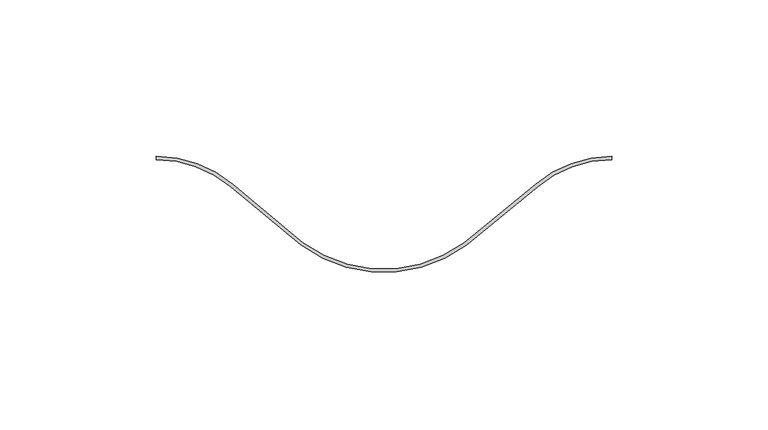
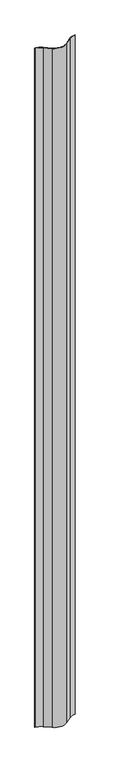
"""IFC4 building model written with IfcOpenShell, lengths in millimetres: plate geometry, Ritmica Couverture 145  : Ritmica Couverture 145 ."""

import ifcopenshell
import ifcopenshell.guid

model = None  # the IFC model being written
_history = None  # IfcOwnerHistory: only IFC2X3 demands one
_inside = {}  # id of a spatial element -> (the spatial element, [elements in it])
_under = {}  # id of a project, library or spatial element -> (it, [spatial elements below it])
_declared = {}  # id of a project -> (the project, [libraries it declares])
_typed = {}  # id of a type object -> (the type object, [elements of that type])
_made_of = {}  # id of a material, layer set ... -> (it, [elements and type objects made of it])


def new_model(schema):
    """Start an empty IFC model of exactly this schema.

    Asked for "IFC4X3", IfcOpenShell would pick the latest addendum, in which some entities
    have other attributes; the version numbers below select the first issue.
    IFC2X3 requires an IfcOwnerHistory on every rooted entity: one is made here for all.
    """
    global model, _history
    if schema == "IFC4X3":
        model = ifcopenshell.file(schema_version=(4, 3, 0, 0))
    else:
        model = ifcopenshell.file(schema=schema)
    _inside.clear()
    _under.clear()
    _declared.clear()
    _typed.clear()
    _made_of.clear()
    _history = None
    if model.schema == "IFC2X3":
        org = make("IfcOrganization", Name="unknown")
        user = make(
            "IfcPersonAndOrganization",
            ThePerson=make("IfcPerson", FamilyName="unknown"),
            TheOrganization=org,
        )
        app = make(
            "IfcApplication",
            ApplicationDeveloper=org,
            Version="unknown",
            ApplicationFullName="unknown",
            ApplicationIdentifier="unknown",
        )
        _history = make(
            "IfcOwnerHistory",
            OwningUser=user,
            OwningApplication=app,
            ChangeAction="ADDED",
            CreationDate=0,
        )
    return model


def make(cls, **values):
    """One entity of the class cls with the attributes given. An attribute that is None is left unset."""
    return model.create_entity(
        cls, **{name: value for name, value in values.items() if value is not None}
    )


def rooted(cls, **values):
    """An entity with a GlobalId (a new one), such as an element, a storey or a relation."""
    return make(cls, GlobalId=ifcopenshell.guid.new(), OwnerHistory=_history, **values)


def si_unit(unit_type, name, prefix=None):
    """IfcSIUnit, for example si_unit("LENGTHUNIT", "METRE", prefix="MILLI")."""
    return make("IfcSIUnit", UnitType=unit_type, Prefix=prefix, Name=name)


def assignment(units):
    """IfcUnitAssignment: the units of a project."""
    return None if units is None else make("IfcUnitAssignment", Units=units)


def point(xyz):
    """IfcCartesianPoint."""
    return None if xyz is None else make("IfcCartesianPoint", Coordinates=xyz)


def direction(xyz):
    """IfcDirection."""
    return None if xyz is None else make("IfcDirection", DirectionRatios=xyz)


def frame(location, z_axis=None, x_axis=None):
    """IfcAxis2Placement3D, a coordinate frame: its origin and axes. An axis left out is left unset."""
    return make(
        "IfcAxis2Placement3D",
        Location=point(location),
        Axis=direction(z_axis),
        RefDirection=direction(x_axis),
    )


def frame_2d(location, x_axis=None):
    """IfcAxis2Placement2D, a coordinate frame in the plane: its origin and x axis."""
    return make(
        "IfcAxis2Placement2D", Location=point(location), RefDirection=direction(x_axis)
    )


def origin():
    """The frame at (0, 0, 0) with its axes left unset."""
    return frame((0.0, 0.0, 0.0))


def origin_with_axes():
    """The frame at (0, 0, 0) with the z axis (0, 0, 1) and the x axis (1, 0, 0) written out."""
    return frame((0.0, 0.0, 0.0), z_axis=(0.0, 0.0, 1.0), x_axis=(1.0, 0.0, 0.0))


def place(relative_to, where):
    """IfcLocalPlacement: puts the frame where relative to a parent placement (None: the world)."""
    return make(
        "IfcLocalPlacement", PlacementRelTo=relative_to, RelativePlacement=where
    )


def context(
    kind, dimensions, precision=None, world=None, true_north=None, identifier=None
):
    """IfcGeometricRepresentationContext, for example the 3D "Model" context."""
    return make(
        "IfcGeometricRepresentationContext",
        ContextIdentifier=identifier,
        ContextType=kind,
        CoordinateSpaceDimension=dimensions,
        Precision=precision,
        WorldCoordinateSystem=world,
        TrueNorth=true_north,
    )


def project(units=None, contexts=None):
    """IfcProject with its units and contexts."""
    return rooted(
        "IfcProject",
        Name="project",
        RepresentationContexts=contexts,
        UnitsInContext=assignment(units),
    )


def spatial(cls, under=None, at=None, **own):
    """A site, building, storey or space (cls), placed at a placement, below another one or the project."""
    s = rooted(cls, ObjectPlacement=at, **own)
    if under is not None:
        _under.setdefault(under.id(), (under, []))[1].append(s)
    return s


def polyline(points):
    """IfcPolyline through the points."""
    return make("IfcPolyline", Points=[point(p) for p in points])


def circle_curve(where, radius):
    """IfcCircle in the frame where."""
    return make("IfcCircle", Position=where, Radius=radius)


def trimmed(basis, trim1, trim2, sense, master):
    """IfcTrimmedCurve: the piece of a basis curve between two trims."""
    return make(
        "IfcTrimmedCurve",
        BasisCurve=basis,
        Trim1=trim1,
        Trim2=trim2,
        SenseAgreement=sense,
        MasterRepresentation=master,
    )


def segment(curve, same_sense, transition):
    """IfcCompositeCurveSegment."""
    return make(
        "IfcCompositeCurveSegment",
        Transition=transition,
        SameSense=same_sense,
        ParentCurve=curve,
    )


def composite_curve(segments, self_intersect=None):
    """IfcCompositeCurve: segments joined end to end."""
    return make("IfcCompositeCurve", Segments=segments, SelfIntersect=self_intersect)


def outline(outer, holes=None, kind="AREA"):
    """IfcArbitraryClosedProfileDef: a profile drawn as a closed curve; with holes, ...WithVoids."""
    if holes is None:
        return make("IfcArbitraryClosedProfileDef", ProfileType=kind, OuterCurve=outer)
    return make(
        "IfcArbitraryProfileDefWithVoids",
        ProfileType=kind,
        OuterCurve=outer,
        InnerCurves=holes,
    )


def extrude(swept, where, along, depth):
    """IfcExtrudedAreaSolid: the profile swept, set in the frame where, extruded along a direction by depth."""
    return make(
        "IfcExtrudedAreaSolid",
        SweptArea=swept,
        Position=where,
        ExtrudedDirection=direction(along),
        Depth=depth,
    )


def shape(context_of_items, identifier, shape_type, items):
    """IfcShapeRepresentation: the items that make up one representation, for example the "Body"."""
    return make(
        "IfcShapeRepresentation",
        ContextOfItems=context_of_items,
        RepresentationIdentifier=identifier,
        RepresentationType=shape_type,
        Items=items,
    )


def source(mapping_origin, context_of_items, identifier, shape_type, items):
    """IfcRepresentationMap: a shape defined once, which mapped items show again and again."""
    return make(
        "IfcRepresentationMap",
        MappingOrigin=mapping_origin,
        MappedRepresentation=shape(context_of_items, identifier, shape_type, items),
    )


def transform(
    local_origin,
    x_axis=None,
    y_axis=None,
    z_axis=None,
    scale=None,
    scale2=None,
    scale3=None,
    uniform=True,
):
    """IfcCartesianTransformationOperator3D, or its non-uniform kind. x_axis, y_axis, z_axis: its Axis1, 2, 3."""
    if uniform:
        return make(
            "IfcCartesianTransformationOperator3D",
            Axis1=direction(x_axis),
            Axis2=direction(y_axis),
            LocalOrigin=point(local_origin),
            Scale=scale,
            Axis3=direction(z_axis),
        )
    return make(
        "IfcCartesianTransformationOperator3DnonUniform",
        Axis1=direction(x_axis),
        Axis2=direction(y_axis),
        LocalOrigin=point(local_origin),
        Scale=scale,
        Axis3=direction(z_axis),
        Scale2=scale2,
        Scale3=scale3,
    )


def mapped(mapping_source, mapping_target):
    """IfcMappedItem: shows the shape of a source again, moved by a transform."""
    return make(
        "IfcMappedItem", MappingSource=mapping_source, MappingTarget=mapping_target
    )


def made_of(thing, what):
    """Note that an element or type object is made of a material, layer set ...; save() writes the relation."""
    if what is not None:
        _made_of.setdefault(what.id(), (what, []))[1].append(thing)
    return thing


def element(
    cls,
    number,
    at=None,
    inside=None,
    cuts=None,
    type_object=None,
    material=None,
    context=None,
    identifier="Body",
    shape_type=None,
    held_by="IfcProductDefinitionShape",
    body=None,
    shapes=None,
    **own,
):
    """One element of the class cls, such as IfcWall. Its Tag is "e" and its number.

    at: its placement. inside: the storey or other place that contains it. cuts: it is an
    opening in that element (IfcRelVoidsElement). A single representation is given by context,
    identifier, shape_type and body (its items); several are given by shapes. held_by: the class
    of the entity that holds the representations. save() writes the other relations.
    """
    e = rooted(cls, Tag="e%d" % number, ObjectPlacement=at, **own)
    if body is not None:
        shapes = [shape(context, identifier, shape_type, body)]
    if shapes is not None:
        e.Representation = make(held_by, Representations=shapes)
    if inside is not None:
        _inside.setdefault(inside.id(), (inside, []))[1].append(e)
    if cuts is not None:
        rooted(
            "IfcRelVoidsElement", RelatingBuildingElement=cuts, RelatedOpeningElement=e
        )
    if type_object is not None:
        _typed.setdefault(type_object.id(), (type_object, []))[1].append(e)
    return made_of(e, material)


def aggregate(whole, parts):
    """IfcRelAggregates: a whole, such as a stair, and the parts it consists of."""
    return rooted("IfcRelAggregates", RelatingObject=whole, RelatedObjects=parts)


def save(model, path):
    """Write the relations noted so far, then the file.

    IfcRelAggregates (storeys below a building ...), IfcRelContainedInSpatialStructure (elements
    in a storey), IfcRelDefinesByType, IfcRelAssociatesMaterial and IfcRelDeclares: one each for
    every whole, place, type object, material and project.
    """
    for whole, parts in _under.values():
        aggregate(whole, parts)
    for where, things in _inside.values():
        rooted(
            "IfcRelContainedInSpatialStructure",
            RelatedElements=things,
            RelatingStructure=where,
        )
    for kind, things in _typed.values():
        rooted("IfcRelDefinesByType", RelatedObjects=things, RelatingType=kind)
    for what, things in _made_of.values():
        rooted("IfcRelAssociatesMaterial", RelatedObjects=things, RelatingMaterial=what)
    for by, libraries in _declared.values():
        rooted("IfcRelDeclares", RelatingContext=by, RelatedDefinitions=libraries)
    model.write(path)


def plate_03eef8ae(model_context):
    return source(origin(), model_context, "Body", "SweptSolid", [
        extrude(outline(composite_curve([segment(trimmed(circle_curve(frame_2d((-72.6270964, -1.0501427)), 37.1314203), [point((-48.8582516, 27.4767637))], [point((-72.6072392, 36.0812723))], True, "CARTESIAN"), True, "CONTINUOUS"), segment(polyline([(-72.6072392, 36.0812723), (-72.6072392, 37.0812725)]), True, "CONTINUOUS"), segment(trimmed(circle_curve(frame_2d((-72.6270964, -1.0501427)), 38.1314203), [point((-72.6072392, 37.0812725))], [point((-48.218124, 28.2450324))], False, "CARTESIAN"), True, "CONTINUOUS"), segment(polyline([(-48.218124, 28.2450324), (-25.8084778, 9.5731372)]), True, "CONTINUOUS"), segment(trimmed(circle_curve(frame_2d((0.0024199, 44.140632)), 43.1406321), [point((-25.8084778, 9.5731372))], [point((25.8095273, 9.5703074))], True, "CARTESIAN"), True, "CONTINUOUS"), segment(polyline([(25.8095273, 9.5703074), (48.523535, 28.2398387)]), True, "CONTINUOUS"), segment(trimmed(circle_curve(frame_2d((72.9292951, -1.0580125)), 38.1314203), [point((48.523535, 28.2398387))], [point((72.823198, 37.0732602))], False, "CARTESIAN"), True, "CONTINUOUS"), segment(polyline([(72.823198, 37.0732602), (72.8235072, 36.0732571)]), True, "CONTINUOUS"), segment(trimmed(circle_curve(frame_2d((72.9292951, -1.0580125)), 37.1314203), [point((72.8235072, 36.0732571))], [point((49.1635783, 27.4714999))], True, "CARTESIAN"), True, "CONTINUOUS"), segment(polyline([(49.1635783, 27.4714999), (26.4292105, 8.7850081)]), True, "CONTINUOUS"), segment(trimmed(circle_curve(frame_2d((0.0024199, 44.140632)), 44.1406321), [point((26.4292105, 8.7850081))], [point((-26.4282471, 8.787906))], False, "CARTESIAN"), True, "CONTINUOUS"), segment(polyline([(-26.4282471, 8.787906), (-48.8582516, 27.4767637)]), True, "CONTINUOUS")], self_intersect=False)), origin_with_axes(), (0.0, 0.0, 1.0), 2588.190451),
    ])


if __name__ == "__main__":
    model = new_model("IFC4")
    model_context = context("Model", 3, world=origin())
    ifc_project = project(units=[si_unit("LENGTHUNIT", "METRE", prefix="MILLI")], contexts=[model_context])
    site = spatial("IfcSite", under=ifc_project)
    building = spatial("IfcBuilding", under=site)
    placement = place(None, origin())
    plate_shape = plate_03eef8ae(model_context)
    element("IfcPlate", 1, ObjectType="Ritmica Couverture 145  : Ritmica Couverture 145 ", at=placement, inside=building, context=model_context, shape_type="MappedRepresentation", body=[
        mapped(plate_shape, transform((0.0, 0.0, 0.0), x_axis=(1.0, 0.0, 0.0), y_axis=(0.0, 1.0, 0.0), z_axis=(0.0, 0.0, 1.0))),
    ])
    save(model, "model.ifc")
